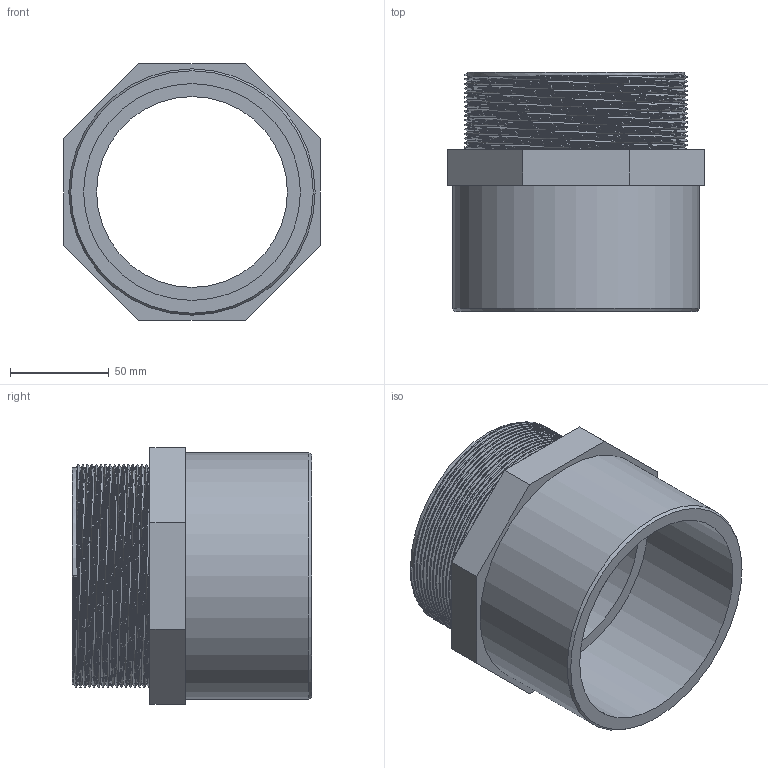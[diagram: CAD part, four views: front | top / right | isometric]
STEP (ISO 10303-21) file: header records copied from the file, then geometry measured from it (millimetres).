
FILE_DESCRIPTION(/* description */ ('PVC adattatore incollaggio-filettatura BSP maschio','CAx-IF Rec.Pracs.---Representation and Presentation of Product Manufacturing Information (PMI)---3.8---2014-02-18'),/* implementation_level */ '2;1');
FILE_NAME(/* name */ 'C:\Users\POLYPIPE\Desktop\DATASET INVENTOR\LIBRERIA EFFAST\3D_RACCORDI\RGR\3D_RGRAMG\3D_RGRAMG110L (01).stp',/* time_stamp */ '2018-03-08T16:44:52+01:00',/* author */ ('POLYPIPE'),/* organization */ ('Polypipe Italia s.r.l.'),/* preprocessor_version */ 'ST-DEVELOPER v16.1',/* originating_system */ 'Autodesk Inventor 2016',/* authorisation */ '');
FILE_SCHEMA (('AP242_MANAGED_MODEL_BASED_3D_ENGINEERING_MIM_LF { 1 0 10303 442 1 1 4 }'));
Length unit declared in the file: millimetre
Products named in the file (1): 3D_RGRAMG
Bounding box: 130 x 121.3 x 130 mm (x, y, z)
Volume: 390080.3 mm3; surface area: 108471.5 mm2
Topology: 1 solids, 1 shells, 26 faces, 56 edges, 36 vertices
Faces by surface type: plane 15, cylinder 5, bspline 5, cone 1
Full cylindrical faces by diameter (mm): 96.8 x1, 97.8 x1, 110 x1, 110.072 x1, 125 x1
Entity records: 13002 total; most frequent: CARTESIAN_POINT 12449, ORIENTED_EDGE 102, DIRECTION 97, EDGE_CURVE 51, EDGE_LOOP 37, VERTEX_POINT 36, AXIS2_PLACEMENT_3D 35, LINE 27
